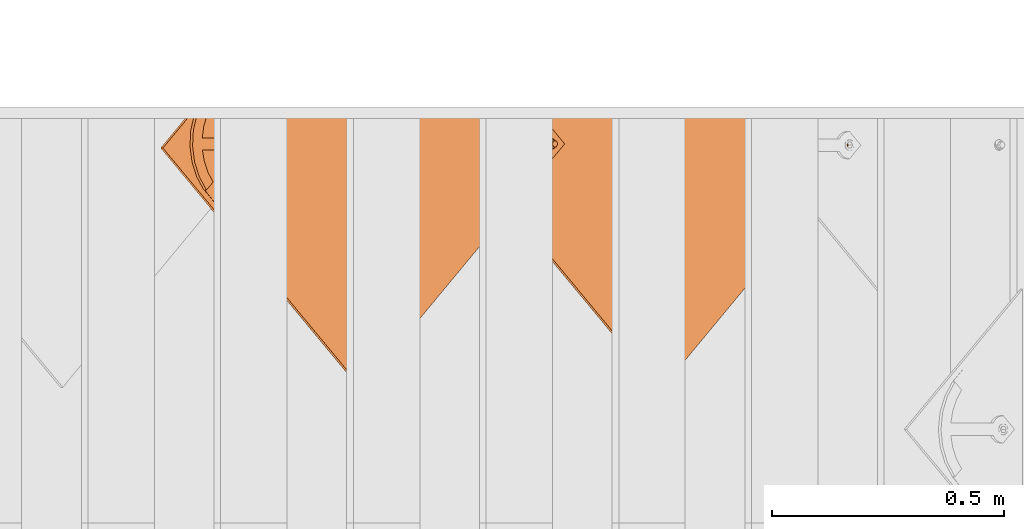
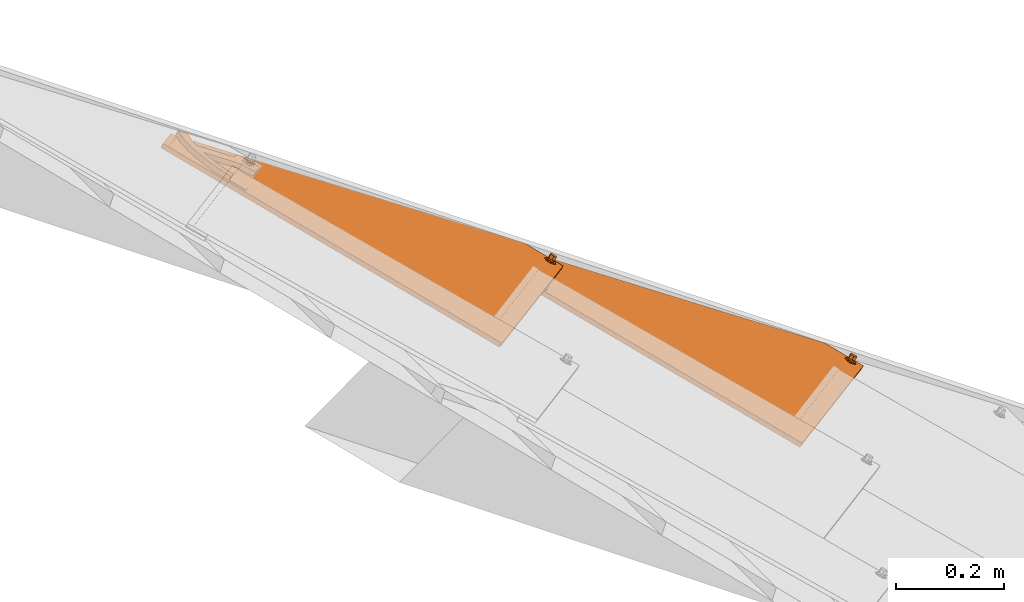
# One storey, part 96 of 151: 2 proxies.
"""IFC2X3 building model written with IfcOpenShell, lengths in millimetres."""

from ifc_helpers import new_model, entity, si_unit, converted_unit, derived_unit, direction, frame, origin, place, context, subcontext, project, spatial, faceted_brep, source, transform, mapped, material, material_list, type_object, type_shapes, element, save


model = new_model("IFC2X3")

# Units and contexts
model_context = context("Model", 3, precision=0.01, world=origin(), true_north=direction((6.12303176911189e-17, 1.0)))
body_context = subcontext(model_context, "Body", "Model", "MODEL_VIEW")
ifc_project = project(units=[si_unit("LENGTHUNIT", "METRE", prefix="MILLI"), si_unit("AREAUNIT", "SQUARE_METRE"), si_unit("VOLUMEUNIT", "CUBIC_METRE"), converted_unit("PLANEANGLEUNIT", "DEGREE", entity("IfcRatioMeasure", 0.0174532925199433), si_unit("PLANEANGLEUNIT", "RADIAN"), dimensions=[0, 0, 0, 0, 0, 0, 0]), si_unit("MASSUNIT", "GRAM", prefix="KILO"), derived_unit("MASSDENSITYUNIT", [(si_unit("MASSUNIT", "GRAM", prefix="KILO"), 1), (si_unit("LENGTHUNIT", "METRE"), -3)]), si_unit("TIMEUNIT", "SECOND"), si_unit("FREQUENCYUNIT", "HERTZ"), si_unit("THERMODYNAMICTEMPERATUREUNIT", "DEGREE_CELSIUS"), derived_unit("THERMALTRANSMITTANCEUNIT", [(si_unit("MASSUNIT", "GRAM", prefix="KILO"), 1), (si_unit("THERMODYNAMICTEMPERATUREUNIT", "KELVIN"), -1), (si_unit("TIMEUNIT", "SECOND"), -3)]), derived_unit("VOLUMETRICFLOWRATEUNIT", [(si_unit("LENGTHUNIT", "METRE"), 3), (si_unit("TIMEUNIT", "SECOND"), -1)]), si_unit("ELECTRICCURRENTUNIT", "AMPERE"), si_unit("ELECTRICVOLTAGEUNIT", "VOLT"), si_unit("POWERUNIT", "WATT"), si_unit("FORCEUNIT", "NEWTON", prefix="KILO"), si_unit("ILLUMINANCEUNIT", "LUX"), si_unit("LUMINOUSFLUXUNIT", "LUMEN"), si_unit("LUMINOUSINTENSITYUNIT", "CANDELA"), derived_unit("USERDEFINED", [(si_unit("MASSUNIT", "GRAM", prefix="KILO"), -1), (si_unit("LENGTHUNIT", "METRE"), -2), (si_unit("TIMEUNIT", "SECOND"), 3), (si_unit("LUMINOUSFLUXUNIT", "LUMEN"), 1)]), derived_unit("LINEARVELOCITYUNIT", [(si_unit("LENGTHUNIT", "METRE"), 1), (si_unit("TIMEUNIT", "SECOND"), -1)]), si_unit("PRESSUREUNIT", "PASCAL"), derived_unit("USERDEFINED", [(si_unit("LENGTHUNIT", "METRE"), -2), (si_unit("MASSUNIT", "GRAM", prefix="KILO"), 1), (si_unit("TIMEUNIT", "SECOND"), -2)])], contexts=[model_context])

# Site, building, storey
site_placement = place(None, origin())
site = spatial("IfcSite", under=ifc_project, at=site_placement, Name="Default", CompositionType="ELEMENT")
building_placement = place(site_placement, origin())
building = spatial("IfcBuilding", under=site, at=building_placement, CompositionType="ELEMENT")
storey_placement = place(building_placement, origin())
storey = spatial("IfcBuildingStorey", under=building, at=storey_placement, Name="Level 1", CompositionType="ELEMENT", Elevation=0.0)

# Proxies
ifc_material_1 = material(Name="Rubber - Sunstyle - Black")
ifc_material_2 = material(Name="Glass - Sunstyle - Tainted Black")
ifc_material_list_1 = material_list([ifc_material_1, ifc_material_2])
ifc_material_list_2 = material_list([ifc_material_1, ifc_material_2])
building_element_proxy_type = type_object("IfcBuildingElementProxyType", Name="Shingle Right - Black", PredefinedType="NOTDEFINED", material=ifc_material_list_2)
shared_shape = source(origin(), body_context, "Body", "Brep", [
    faceted_brep([(526.70519509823, 41.3127833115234, 3.87722628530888), (520.930992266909, 37.9795131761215, 3.9330502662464), (520.930992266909, 38.34782226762, 25.9249196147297), (526.70519509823, 41.6810924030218, 25.8690956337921), (520.930992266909, 31.3129729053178, 4.0446982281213), (520.930992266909, 31.6812819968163, 26.0365675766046), (526.70519509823, 27.979702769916, 4.1005222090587), (526.70519509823, 28.3480118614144, 26.092391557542), (532.47939792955, 31.3129729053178, 4.04469822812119), (532.47939792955, 31.6812819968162, 26.0365675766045), (532.47939792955, 37.9795131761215, 3.93305026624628), (532.47939792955, 38.3478222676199, 25.9249196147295), (518.101490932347, 26.4120542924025, 26.1248140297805), (526.70519509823, 22.8487830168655, 26.1844899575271), (514.537719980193, 35.0145521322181, 25.9807435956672), (518.101490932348, 43.6170499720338, 25.8366731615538), (526.70519509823, 47.1803212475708, 25.776997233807), (535.308899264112, 43.6170499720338, 25.8366731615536), (538.872670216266, 35.0145521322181, 25.9807435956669), (535.308899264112, 26.4120542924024, 26.1248140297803), (515.380950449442, 37.3096292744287, 28.2935855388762), (516.94872054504, 35.0855670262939, 30.2210682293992), (526.70519509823, 42.3986422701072, 30.8537686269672), (526.70519509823, 43.6391399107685, 30.2734219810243), (526.70519509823, 45.7966907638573, 29.2640469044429), (526.70519509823, 23.4048270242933, 27.4595479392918), (526.70519509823, 24.3484036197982, 29.6232523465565), (526.70519509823, 27.7977793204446, 31.0982967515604), (526.70519509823, 46.6672851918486, 27.0699596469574), (520.381949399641, 31.4479950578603, 31.0371647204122), (520.381949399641, 38.7484265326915, 30.9149006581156), (538.029439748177, 32.7982090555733, 28.3691406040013), (536.554075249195, 34.0111605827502, 30.1422000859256), (533.028440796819, 38.7484265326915, 30.9149006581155), (533.028440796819, 31.4479950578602, 31.0371647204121), (520.381949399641, 31.5820235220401, 39.0400528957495), (526.70519509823, 27.9318077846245, 39.1011849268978), (526.70519509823, 35.2322392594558, 38.9789208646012), (520.381949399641, 38.8824549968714, 38.9177888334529), (533.028440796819, 31.5820235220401, 39.0400528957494), (533.028440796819, 38.8824549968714, 38.9177888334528), (526.70519509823, 42.532670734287, 38.8566568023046), (526.70519509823, 34.6462430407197, 3.98887424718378)], [[[0, 1, 2, 3]], [[1, 4, 5, 2]], [[4, 6, 7, 5]], [[6, 8, 9, 7]], [[8, 10, 11, 9]], [[10, 0, 3, 11]], [[12, 7, 13]], [[7, 12, 5]], [[14, 5, 12]], [[5, 14, 2]], [[15, 2, 14]], [[3, 2, 15]], [[15, 16, 3]], [[16, 17, 3]], [[11, 3, 17]], [[11, 17, 18]], [[9, 11, 18]], [[18, 19, 9]], [[7, 9, 19]], [[19, 13, 7]], [[20, 14, 12]], [[21, 22, 23, 24]], [[24, 20, 21]], [[25, 20, 12]], [[26, 27, 21]], [[15, 14, 20]], [[12, 13, 25]], [[20, 28, 15]], [[28, 20, 24]], [[21, 27, 29]], [[21, 29, 30]], [[26, 21, 20]], [[20, 25, 26]], [[15, 28, 16]], [[21, 30, 22]], [[31, 18, 17]], [[28, 31, 17]], [[32, 27, 26]], [[26, 31, 32]], [[26, 25, 31]], [[25, 19, 31]], [[17, 16, 28]], [[31, 19, 18]], [[24, 31, 28]], [[33, 34, 32]], [[23, 22, 33]], [[24, 32, 31]], [[27, 32, 34]], [[32, 23, 33]], [[19, 25, 13]], [[32, 24, 23]], [[35, 36, 37]], [[37, 38, 35]], [[36, 39, 37]], [[40, 37, 39]], [[37, 40, 41]], [[37, 41, 38]], [[42, 6, 4]], [[4, 1, 42]], [[1, 0, 42]], [[42, 8, 6]], [[0, 10, 42]], [[8, 42, 10]], [[22, 30, 38, 41]], [[30, 29, 35, 38]], [[29, 27, 36, 35]], [[27, 34, 39, 36]], [[34, 33, 40, 39]], [[33, 22, 41, 40]]]),
    faceted_brep([(526.70519509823, 811.19100538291, 21.4210230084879), (526.70519509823, 815.690374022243, 21.3456697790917), (518.101490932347, 814.754276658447, 21.3613470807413), (535.308899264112, 814.754276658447, 21.3613470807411), (533.345423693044, 819.523574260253, 21.2814732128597), (538.872670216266, 823.356774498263, 21.2172766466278), (533.345423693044, 827.189974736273, 21.1530800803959), (535.308899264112, 831.959272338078, 21.0732062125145), (526.70519509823, 831.023174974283, 21.0888835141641), (526.70519509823, 835.522543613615, 21.0135302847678), (518.101490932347, 831.959272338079, 21.0732062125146), (520.064966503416, 827.189974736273, 21.1530800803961), (514.537719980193, 823.356774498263, 21.217276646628), (520.064966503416, 819.523574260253, 21.2814732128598), (520.064966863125, 826.922051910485, 5.15532344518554), (526.70519509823, 830.755251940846, 5.09112688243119), (520.064966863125, 819.255651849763, 5.2837165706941), (526.70519509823, 815.422451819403, 5.34791313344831), (533.345423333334, 819.255651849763, 5.28371657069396), (533.345423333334, 826.922051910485, 5.1553234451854), (518.101490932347, 814.486354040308, 5.36359044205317), (526.70519509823, 810.923082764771, 5.4232663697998), (514.537719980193, 823.088851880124, 5.21952000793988), (518.101490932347, 831.69134971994, 5.07544957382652), (526.70519509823, 835.254620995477, 5.01577364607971), (535.308899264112, 831.69134971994, 5.07544957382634), (538.872670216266, 823.088851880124, 5.21952000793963), (535.308899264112, 814.486354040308, 5.36359044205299)], [[[0, 1, 2]], [[1, 0, 3]], [[3, 4, 1]], [[4, 3, 5]], [[6, 4, 5]], [[5, 7, 6]], [[7, 8, 6]], [[8, 7, 9]], [[8, 9, 10]], [[10, 11, 8]], [[12, 11, 10]], [[2, 13, 12]], [[12, 13, 11]], [[13, 2, 1]], [[8, 11, 14, 15]], [[11, 13, 16, 14]], [[13, 1, 17, 16]], [[1, 4, 18, 17]], [[4, 6, 19, 18]], [[6, 8, 15, 19]], [[20, 17, 21]], [[17, 20, 16]], [[22, 16, 20]], [[14, 16, 22]], [[23, 14, 22]], [[15, 14, 23]], [[23, 24, 15]], [[24, 25, 15]], [[19, 15, 25]], [[19, 25, 26]], [[26, 18, 19]], [[26, 27, 18]], [[17, 18, 27]], [[27, 21, 17]], [[24, 23, 10, 9]], [[10, 23, 22, 12]], [[20, 21, 0, 2]], [[20, 2, 12, 22]], [[21, 27, 3, 0]], [[3, 27, 26, 5]], [[25, 24, 9, 7]], [[25, 7, 5, 26]]]),
    faceted_brep([(578.30986553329, 967.15023469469, 8.79467739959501), (586.794551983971, 975.634921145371, 8.65258001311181), (586.794551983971, 975.660038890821, 10.1523696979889), (578.30986553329, 967.17535244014, 10.294467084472), (517.891471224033, 1027.55168765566, 7.7831033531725), (8.48468645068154, 518.287740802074, 16.3120073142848), (0.0, 526.772427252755, 16.1699099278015), (517.891471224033, 1044.51868144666, 7.49894842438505), (517.891471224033, 1044.54379919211, 8.99873810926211), (0.0, 526.797544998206, 17.6696996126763), (8.4846864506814, 518.312858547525, 17.8117969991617), (517.891471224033, 1027.57680540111, 9.28289303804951)], [[[0, 1, 2, 3]], [[1, 0, 4, 5, 6, 7]], [[2, 1, 7, 8]], [[3, 2, 8, 9, 10, 11]], [[0, 3, 11, 4]], [[5, 10, 9, 6]], [[8, 7, 6, 9]], [[4, 11, 10, 5]]]),
    faceted_brep([(586.794551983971, 975.634921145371, 8.65258001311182), (517.891471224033, 1044.51868144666, 7.49894842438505), (523.812678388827, 834.561085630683, 11.0152157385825), (526.918506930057, 834.969918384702, 11.0083688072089), (530.024335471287, 834.561085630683, 11.0152157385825), (532.918506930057, 833.362448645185, 11.0352899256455), (535.403788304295, 831.455692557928, 11.0672233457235), (537.31081177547, 828.970759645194, 11.1088397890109), (538.509616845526, 826.076993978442, 11.1573031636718), (538.918506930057, 822.971600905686, 11.2093107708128), (538.509616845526, 819.86620783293, 11.2613183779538), (586.79455198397, 60.1087646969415, 23.9853651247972), (520.918506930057, 833.362448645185, 11.0352899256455), (518.433225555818, 831.455692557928, 11.0672233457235), (516.526202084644, 828.970759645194, 11.1088397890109), (515.327397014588, 826.076993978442, 11.1573031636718), (0.0, 526.772427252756, 16.1699099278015), (514.918506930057, 822.971600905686, 11.2093107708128), (515.327397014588, 819.86620783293, 11.2613183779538), (516.526202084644, 816.972442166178, 11.3097817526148), (518.433225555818, 814.487509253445, 11.3513981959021), (520.918506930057, 812.580753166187, 11.3833316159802), (523.812678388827, 811.382116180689, 11.4034058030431), (524.667140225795, 42.642731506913, 24.2778777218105), (522.737692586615, 41.8436401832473, 24.2912605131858), (521.080838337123, 40.572469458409, 24.3125494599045), (519.80948935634, 38.9158475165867, 24.3402937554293), (519.010285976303, 36.9866704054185, 24.37260267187), (518.737692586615, 34.9164083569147, 24.407274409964), (519.010285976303, 32.8461463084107, 24.441946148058), (526.794551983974, 0.125588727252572, 24.989934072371), (519.80948935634, 30.9169691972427, 24.4742550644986), (533.665895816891, 30.9169691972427, 24.4742550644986), (532.394546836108, 29.2603472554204, 24.5019993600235), (530.737692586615, 27.9891765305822, 24.5232883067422), (528.808244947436, 27.1900852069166, 24.5366710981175), (526.737692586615, 26.9175300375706, 24.5412357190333), (524.667140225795, 27.1900852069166, 24.5366710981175), (522.737692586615, 27.9891765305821, 24.5232883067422), (521.080838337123, 29.2603472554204, 24.5019993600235), (526.737692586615, 42.9152866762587, 24.2733131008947), (528.808244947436, 42.6427315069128, 24.2778777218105), (530.737692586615, 41.8436401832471, 24.2912605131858), (532.394546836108, 40.572469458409, 24.3125494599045), (533.665895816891, 38.9158475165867, 24.3402937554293), (534.465099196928, 36.9866704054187, 24.37260267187), (534.737692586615, 34.9164083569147, 24.407274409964), (534.465099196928, 32.8461463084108, 24.441946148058), (526.918506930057, 810.97328342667, 11.4102527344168), (537.31081177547, 816.972442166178, 11.3097817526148), (535.403788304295, 814.487509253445, 11.3513981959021), (532.918506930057, 812.580753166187, 11.3833316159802), (530.024335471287, 811.382116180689, 11.4034058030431), (0.0, 526.646838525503, 8.67096150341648), (519.80948935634, 38.790258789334, 16.8413453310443), (519.010285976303, 36.8610816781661, 16.8736542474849), (521.080838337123, 40.4468807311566, 16.8136010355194), (518.737692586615, 34.7908196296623, 16.9083259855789), (519.010285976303, 32.7205575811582, 16.9429977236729), (526.794551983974, 0.0, 17.4909856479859), (522.737692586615, 41.7180514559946, 16.7923120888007), (524.667140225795, 42.5171427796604, 16.7789292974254), (523.812678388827, 811.256527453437, 3.90445737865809), (520.918506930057, 812.455164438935, 3.88438319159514), (518.433225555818, 814.361920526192, 3.85244977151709), (516.526202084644, 816.846853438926, 3.81083332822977), (515.327397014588, 819.740619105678, 3.76236995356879), (514.918506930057, 822.846012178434, 3.71036234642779), (515.327397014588, 825.95140525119, 3.65835473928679), (517.891471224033, 1044.39309271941, 0.0), (516.526202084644, 828.845170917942, 3.60989136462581), (518.433225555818, 831.330103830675, 3.56827492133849), (520.918506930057, 833.236859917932, 3.53634150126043), (523.812678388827, 834.435496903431, 3.51626731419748), (586.794551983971, 975.509332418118, 1.15363158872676), (526.918506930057, 834.84432965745, 3.50942038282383), (530.024335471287, 834.435496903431, 3.51626731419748), (532.918506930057, 833.236859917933, 3.53634150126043), (535.403788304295, 831.330103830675, 3.56827492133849), (537.31081177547, 828.845170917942, 3.60989136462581), (538.509616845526, 825.95140525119, 3.65835473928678), (538.918506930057, 822.846012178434, 3.71036234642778), (538.509616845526, 819.740619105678, 3.76236995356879), (586.79455198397, 59.983175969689, 16.4864167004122), (526.737692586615, 42.7896979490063, 16.7743646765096), (528.808244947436, 42.5171427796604, 16.7789292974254), (530.737692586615, 41.7180514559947, 16.7923120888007), (532.394546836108, 40.4468807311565, 16.8136010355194), (533.665895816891, 30.7913804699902, 16.9753066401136), (534.465099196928, 32.7205575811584, 16.9429977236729), (534.737692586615, 34.7908196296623, 16.9083259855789), (534.465099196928, 36.8610816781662, 16.8736542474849), (533.665895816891, 38.7902587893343, 16.8413453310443), (526.918506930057, 810.847694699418, 3.91130431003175), (530.024335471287, 811.256527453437, 3.90445737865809), (532.918506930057, 812.455164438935, 3.88438319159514), (535.403788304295, 814.361920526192, 3.85244977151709), (537.31081177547, 816.846853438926, 3.81083332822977), (519.80948935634, 30.7913804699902, 16.9753066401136), (521.080838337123, 29.134758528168, 17.0030509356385), (522.737692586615, 27.8635878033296, 17.0243398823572), (524.667140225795, 27.0644964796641, 17.0377226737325), (526.737692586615, 26.7919413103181, 17.0422872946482), (528.808244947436, 27.0644964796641, 17.0377226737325), (530.737692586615, 27.8635878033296, 17.0243398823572), (532.394546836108, 29.1347585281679, 17.0030509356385)], [[[0, 1, 2]], [[0, 2, 3]], [[3, 4, 0]], [[4, 5, 0]], [[0, 5, 6]], [[6, 7, 0]], [[7, 8, 0]], [[8, 9, 0]], [[9, 10, 0]], [[0, 10, 11]], [[2, 1, 12]], [[13, 12, 1]], [[14, 13, 1]], [[14, 1, 15]], [[15, 1, 16]], [[16, 17, 15]], [[17, 16, 18]], [[19, 18, 16]], [[19, 16, 20]], [[21, 20, 16]], [[22, 21, 16]], [[23, 22, 16]], [[24, 23, 16]], [[16, 25, 24]], [[25, 16, 26]], [[26, 16, 27]], [[28, 27, 16]], [[28, 16, 29]], [[29, 16, 30]], [[30, 31, 29]], [[11, 32, 30]], [[30, 32, 33]], [[34, 30, 33]], [[34, 35, 30]], [[36, 30, 35]], [[30, 36, 37]], [[37, 38, 30]], [[38, 39, 30]], [[39, 31, 30]], [[23, 11, 22]], [[11, 23, 40]], [[11, 40, 41]], [[11, 41, 42]], [[42, 43, 11]], [[44, 11, 43]], [[44, 45, 11]], [[45, 46, 11]], [[47, 11, 46]], [[11, 47, 32]], [[22, 11, 48]], [[10, 49, 11]], [[49, 50, 11]], [[50, 51, 11]], [[51, 52, 11]], [[52, 48, 11]], [[53, 54, 55]], [[54, 53, 56]], [[53, 55, 57]], [[57, 58, 53]], [[53, 58, 59]], [[60, 56, 53]], [[61, 60, 53]], [[61, 53, 62]], [[62, 53, 63]], [[53, 64, 63]], [[64, 53, 65]], [[65, 53, 66]], [[66, 53, 67]], [[67, 53, 68]], [[53, 69, 68]], [[70, 68, 69]], [[71, 70, 69]], [[69, 72, 71]], [[73, 72, 69]], [[73, 69, 74]], [[75, 73, 74]], [[75, 74, 76]], [[77, 76, 74]], [[74, 78, 77]], [[79, 78, 74]], [[80, 79, 74]], [[80, 74, 81]], [[81, 74, 82]], [[82, 74, 83]], [[84, 61, 83]], [[83, 85, 84]], [[86, 85, 83]], [[83, 87, 86]], [[59, 88, 83]], [[83, 88, 89]], [[90, 83, 89]], [[90, 91, 83]], [[91, 92, 83]], [[87, 83, 92]], [[62, 83, 61]], [[93, 83, 62]], [[83, 93, 94]], [[94, 95, 83]], [[83, 95, 96]], [[96, 97, 83]], [[97, 82, 83]], [[59, 58, 98]], [[99, 59, 98]], [[99, 100, 59]], [[100, 101, 59]], [[102, 59, 101]], [[59, 102, 103]], [[59, 103, 104]], [[104, 105, 59]], [[105, 88, 59]], [[16, 1, 69, 53]], [[30, 16, 53, 59]], [[11, 30, 59, 83]], [[1, 0, 74, 69]], [[28, 57, 55, 27]], [[27, 55, 54, 26]], [[24, 25, 56, 60]], [[56, 25, 26, 54]], [[23, 24, 60, 61]], [[23, 61, 84, 40]], [[40, 84, 85, 41]], [[41, 85, 86, 42]], [[44, 43, 87, 92]], [[87, 43, 42, 86]], [[45, 44, 92, 91]], [[45, 91, 90, 46]], [[46, 90, 89, 47]], [[47, 89, 88, 32]], [[34, 33, 105, 104]], [[105, 33, 32, 88]], [[35, 34, 104, 103]], [[35, 103, 102, 36]], [[36, 102, 101, 37]], [[37, 101, 100, 38]], [[31, 39, 99, 98]], [[39, 38, 100, 99]], [[58, 29, 31, 98]], [[29, 58, 57, 28]], [[17, 67, 68, 15]], [[15, 68, 70, 14]], [[12, 13, 71, 72]], [[71, 13, 14, 70]], [[2, 12, 72, 73]], [[2, 73, 75, 3]], [[3, 75, 76, 4]], [[4, 76, 77, 5]], [[7, 6, 78, 79]], [[78, 6, 5, 77]], [[8, 7, 79, 80]], [[8, 80, 81, 9]], [[9, 81, 82, 10]], [[10, 82, 97, 49]], [[51, 50, 96, 95]], [[96, 50, 49, 97]], [[52, 51, 95, 94]], [[52, 94, 93, 48]], [[48, 93, 62, 22]], [[22, 62, 63, 21]], [[19, 20, 64, 65]], [[64, 20, 21, 63]], [[18, 19, 65, 66]], [[18, 66, 67, 17]], [[0, 11, 83, 74]]]),
    faceted_brep([(503.195324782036, 841.557074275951, 20.8994526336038), (517.914693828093, 832.008099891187, 21.0593741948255), (507.695869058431, 846.190079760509, 20.8218613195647), (516.007670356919, 829.523166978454, 21.1009906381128), (499.815755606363, 836.052923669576, 20.9916334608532), (514.808865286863, 826.629401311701, 21.1494540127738), (497.720422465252, 829.943523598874, 21.0939507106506), (514.399975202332, 823.524008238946, 21.2014616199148), (497.010547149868, 823.524008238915, 21.2014616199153), (514.808865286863, 820.41861516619, 21.2534692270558), (516.007670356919, 817.524849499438, 21.3019326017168), (517.914693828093, 815.039916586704, 21.3435490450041), (526.399975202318, 794.138700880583, 21.6935924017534), (520.399975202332, 813.133160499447, 21.3754824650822), (523.294146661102, 811.934523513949, 21.3955566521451), (526.399975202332, 811.52569075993, 21.4024035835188), (529.505803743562, 811.934523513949, 21.3955566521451), (532.399975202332, 813.133160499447, 21.3754824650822), (534.885256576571, 815.039916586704, 21.3435490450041), (555.789403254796, 823.524008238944, 21.2014616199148), (536.792280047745, 817.524849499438, 21.3019326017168), (537.991085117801, 820.41861516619, 21.2534692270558), (538.399975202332, 823.524008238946, 21.2014616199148), (555.079527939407, 829.943523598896, 21.0939507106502), (537.991085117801, 826.629401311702, 21.1494540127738), (552.984194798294, 836.052923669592, 20.9916334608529), (536.792280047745, 829.523166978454, 21.1009906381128), (549.604625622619, 841.557074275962, 20.8994526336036), (534.88525657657, 832.008099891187, 21.0593741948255), (545.104081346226, 846.190079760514, 20.8218613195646), (532.399975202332, 833.914855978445, 21.0274407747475), (539.69997520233, 849.728127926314, 20.7626078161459), (529.505803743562, 835.113492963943, 21.0073665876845), (526.399975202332, 835.522325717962, 21.0005196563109), (513.09997520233, 849.728127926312, 20.762607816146), (513.099975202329, 947.789128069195, 19.1203300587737), (539.699975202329, 948.373752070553, 19.1105390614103), (522.252457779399, 973.425526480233, 18.6909841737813), (556.520926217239, 971.308509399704, 18.7264389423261), (565.239246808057, 944.126992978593, 19.1816617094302), (589.568348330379, 961.999667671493, 18.8823388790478), (589.568348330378, 935.274464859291, 19.3299195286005), (488.310294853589, 968.25512753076, 18.7775754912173), (488.729131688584, 942.717602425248, 19.2052654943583), (456.227055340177, 956.030775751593, 18.9823029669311), (465.633151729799, 933.432284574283, 19.3607714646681), (444.534595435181, 920.223666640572, 19.5819829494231), (427.451419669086, 937.304447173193, 19.2959223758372), (520.399975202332, 833.914855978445, 21.0274407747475), (523.294146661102, 835.113492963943, 21.0073665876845), (526.399975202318, 793.971249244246, 11.6949945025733), (526.399975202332, 811.358239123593, 11.4038056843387), (529.505803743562, 811.767071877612, 11.396958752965), (523.294146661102, 811.767071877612, 11.396958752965), (532.399975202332, 812.96570886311, 11.3768845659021), (534.885256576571, 814.872464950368, 11.344951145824), (555.789403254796, 823.356556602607, 11.2028637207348), (520.399975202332, 812.96570886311, 11.3768845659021), (517.914693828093, 814.872464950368, 11.344951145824), (497.010547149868, 823.356556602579, 11.2028637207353), (516.007670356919, 817.357397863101, 11.3033347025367), (514.808865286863, 820.251163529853, 11.2548713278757), (514.399975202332, 823.356556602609, 11.2028637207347), (497.720422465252, 829.776071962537, 11.0953528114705), (514.808865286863, 826.461949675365, 11.1508561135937), (499.815755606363, 835.885472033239, 10.9930355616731), (516.007670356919, 829.355715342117, 11.1023927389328), (503.195324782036, 841.389622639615, 10.9008547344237), (517.914693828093, 831.84064825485, 11.0607762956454), (507.695869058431, 846.022628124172, 10.8232634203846), (520.399975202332, 833.747404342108, 11.0288428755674), (513.09997520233, 849.560676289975, 10.7640099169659), (523.294146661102, 834.946041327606, 11.0087686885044), (526.399975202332, 835.354874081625, 11.0019217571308), (539.69997520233, 849.560676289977, 10.7640099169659), (513.099975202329, 947.621676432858, 9.12173215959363), (539.69997520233, 948.206300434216, 9.11194116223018), (522.252457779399, 973.258074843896, 8.69238627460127), (488.310294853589, 968.087675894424, 8.77897759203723), (488.729131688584, 942.550150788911, 9.20666759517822), (456.227055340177, 955.863324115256, 8.98370506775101), (465.633151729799, 933.264832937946, 9.36217356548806), (444.533467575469, 920.055518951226, 9.58339670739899), (428.044288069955, 936.544210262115, 9.30725215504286), (421.793762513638, 931.184466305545, 9.39701453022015), (415.826529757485, 925.515365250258, 9.49195786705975), (418.207622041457, 893.733364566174, 10.0242272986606), (401.122816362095, 910.815774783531, 9.73813943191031), (427.451419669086, 937.136995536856, 9.29732447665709), (556.520926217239, 971.141057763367, 8.727841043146), (565.239246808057, 943.959541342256, 9.18306381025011), (589.568348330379, 961.832216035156, 8.88374097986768), (589.568348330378, 935.107013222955, 9.33132162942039), (529.505803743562, 834.946041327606, 11.0087686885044), (532.399975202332, 833.747404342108, 11.0288428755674), (545.104081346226, 846.022628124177, 10.8232634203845), (534.88525657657, 831.84064825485, 11.0607762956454), (549.604625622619, 841.389622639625, 10.9008547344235), (536.792280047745, 829.355715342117, 11.1023927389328), (552.984194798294, 835.885472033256, 10.9930355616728), (537.991085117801, 826.461949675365, 11.1508561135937), (555.079527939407, 829.77607196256, 11.0953528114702), (538.399975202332, 823.356556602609, 11.2028637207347), (537.991085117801, 820.251163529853, 11.2548713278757), (536.792280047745, 817.357397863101, 11.3033347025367), (415.826529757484, 925.557228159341, 11.9916073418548), (401.122816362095, 910.857637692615, 12.2377889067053), (418.207622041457, 893.775227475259, 12.5238767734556), (444.534595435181, 920.09807791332, 12.083034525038), (428.042008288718, 936.584216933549, 11.8069327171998), (421.793762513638, 931.226329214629, 11.8966640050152)], [[[0, 1, 2]], [[3, 1, 0]], [[4, 3, 0]], [[5, 3, 4]], [[4, 6, 5]], [[6, 7, 5]], [[7, 6, 8]], [[9, 7, 8]], [[10, 9, 8]], [[10, 8, 11]], [[8, 12, 11]], [[13, 11, 12]], [[13, 12, 14]], [[12, 15, 14]], [[15, 12, 16]], [[16, 12, 17]], [[18, 17, 12]], [[18, 12, 19]], [[19, 20, 18]], [[21, 20, 19]], [[22, 21, 19]], [[19, 23, 22]], [[24, 22, 23]], [[23, 25, 24]], [[25, 26, 24]], [[26, 25, 27]], [[28, 26, 27]], [[27, 29, 28]], [[30, 28, 29]], [[29, 31, 30]], [[30, 31, 32]], [[32, 31, 33]], [[31, 34, 33]], [[35, 34, 31]], [[35, 31, 36]], [[36, 37, 35]], [[36, 38, 37]], [[39, 38, 36]], [[38, 39, 40]], [[41, 40, 39]], [[37, 42, 35]], [[35, 42, 43]], [[43, 42, 44]], [[44, 45, 43]], [[44, 46, 45]], [[46, 44, 47]], [[48, 34, 2]], [[48, 49, 34]], [[34, 49, 33]], [[48, 2, 1]], [[50, 51, 52]], [[51, 50, 53]], [[50, 52, 54]], [[54, 55, 50]], [[50, 55, 56]], [[57, 53, 50]], [[58, 57, 50]], [[58, 50, 59]], [[59, 60, 58]], [[60, 59, 61]], [[61, 59, 62]], [[63, 62, 59]], [[64, 62, 63]], [[63, 65, 64]], [[64, 65, 66]], [[65, 67, 66]], [[68, 66, 67]], [[69, 68, 67]], [[69, 70, 68]], [[70, 69, 71]], [[71, 72, 70]], [[71, 73, 72]], [[74, 73, 71]], [[71, 75, 74]], [[75, 76, 74]], [[76, 75, 77]], [[77, 75, 78]], [[79, 78, 75]], [[80, 78, 79]], [[79, 81, 80]], [[81, 82, 80]], [[82, 83, 80]], [[84, 83, 82]], [[84, 82, 85]], [[82, 86, 85]], [[86, 87, 85]], [[83, 88, 80]], [[76, 77, 89]], [[89, 90, 76]], [[90, 89, 91]], [[91, 92, 90]], [[93, 73, 74]], [[74, 94, 93]], [[94, 74, 95]], [[95, 96, 94]], [[95, 97, 96]], [[96, 97, 98]], [[99, 98, 97]], [[99, 100, 98]], [[101, 100, 99]], [[102, 100, 101]], [[56, 102, 101]], [[103, 102, 56]], [[56, 55, 104]], [[103, 56, 104]], [[34, 35, 75, 71]], [[2, 34, 71, 69]], [[0, 2, 69, 67]], [[67, 65, 4, 0]], [[6, 4, 65, 63]], [[8, 6, 63, 59]], [[12, 8, 59, 50]], [[19, 12, 50, 56]], [[23, 19, 56, 101]], [[25, 23, 101, 99]], [[99, 97, 27, 25]], [[29, 27, 97, 95]], [[31, 29, 95, 74]], [[36, 31, 74, 76]], [[38, 40, 91, 89]], [[37, 38, 89, 77]], [[77, 78, 42, 37]], [[44, 42, 78, 80]], [[47, 44, 80, 88]], [[7, 62, 64, 5]], [[5, 64, 66, 3]], [[48, 1, 68, 70]], [[66, 68, 1, 3]], [[49, 48, 70, 72]], [[73, 33, 49, 72]], [[32, 93, 94, 30]], [[30, 94, 96, 28]], [[24, 26, 98, 100]], [[96, 98, 26, 28]], [[22, 24, 100, 102]], [[32, 33, 73, 93]], [[22, 102, 103, 21]], [[21, 103, 104, 20]], [[17, 18, 55, 54]], [[104, 55, 18, 20]], [[16, 17, 54, 52]], [[51, 15, 16, 52]], [[14, 53, 57, 13]], [[13, 57, 58, 11]], [[9, 10, 60, 61]], [[58, 60, 10, 11]], [[7, 9, 61, 62]], [[14, 15, 51, 53]], [[105, 106, 107, 108, 109, 110]], [[107, 106, 87, 86]], [[108, 107, 82]], [[86, 82, 107]], [[109, 83, 110]], [[110, 83, 84]], [[84, 85, 105, 110]], [[106, 105, 85, 87]], [[46, 47, 109]], [[109, 47, 88]], [[46, 109, 108]], [[83, 109, 88]], [[108, 81, 45, 46]], [[108, 82, 81]], [[79, 75, 35, 43]], [[81, 79, 43, 45]], [[76, 90, 39, 36]], [[92, 41, 39, 90]], [[40, 41, 92, 91]]]),
])
type_shapes(building_element_proxy_type, [shared_shape])
proxy_1_placement = place(storey_placement, frame((3575.64908186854, 3344.38795347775, 1212.22970635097), z_axis=(0.573576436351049, 0.0, 0.81915204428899), x_axis=(0.0, 1.0, 0.0)))
element("IfcBuildingElementProxy", 1, at=proxy_1_placement, inside=storey, type_object=building_element_proxy_type, material=ifc_material_list_1, Name="Roofing_Panels_SunStyle_Tile_Shingle-Right:Shingle Right - Black", ObjectType="Roofing_Panels_SunStyle_Tile_Shingle-Right:Shingle Right - Black", context=body_context, shape_type="MappedRepresentation", body=[
    mapped(shared_shape, transform((0.0, 0.0, 0.0), scale=1.0)),
])
ifc_material_list_3 = material_list([ifc_material_1, ifc_material_2])
proxy_2_placement = place(storey_placement, frame((4218.7560657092, 3341.69268103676, 761.921348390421), z_axis=(0.573576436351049, 0.0, 0.81915204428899), x_axis=(0.0, 1.0, 0.0)))
element("IfcBuildingElementProxy", 2, at=proxy_2_placement, inside=storey, type_object=building_element_proxy_type, material=ifc_material_list_3, Name="Roofing_Panels_SunStyle_Tile_Shingle-Right:Shingle Right - Black", ObjectType="Roofing_Panels_SunStyle_Tile_Shingle-Right:Shingle Right - Black", context=body_context, shape_type="MappedRepresentation", body=[
    mapped(shared_shape, transform((0.0, 0.0, 0.0), scale=1.0)),
])

save(model, "model.ifc")
